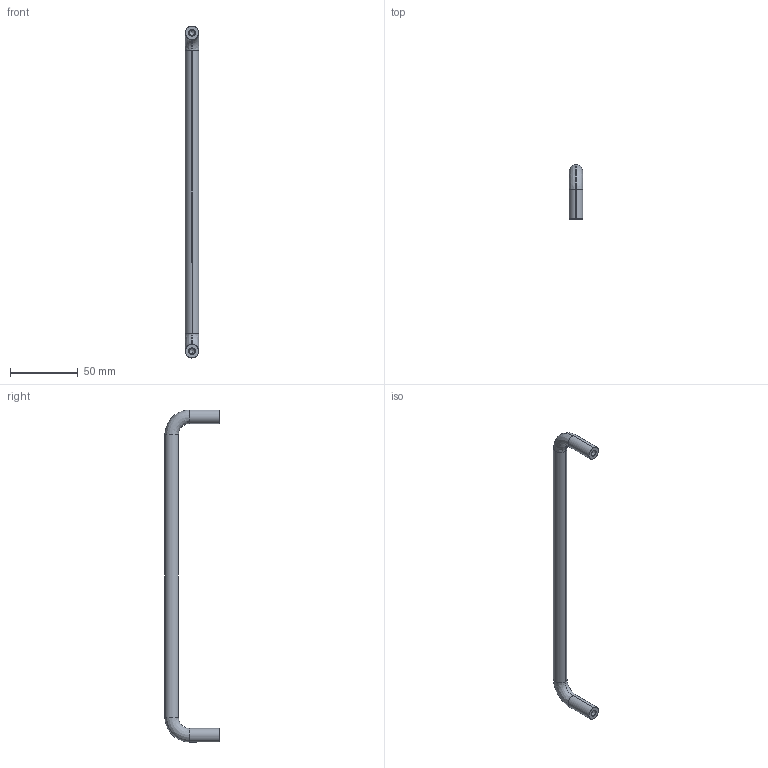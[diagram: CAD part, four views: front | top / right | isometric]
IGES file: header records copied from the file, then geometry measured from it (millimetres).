
Start section: SolidWorks IGES file using analytic representation for surfaces
Global section: file name: C:\Users\IanO\Desktop\Temp File\Process pending\79840_v2\79840_v2_20171115_IGES\79840.W0023.igs; native system: SolidWorks 2017; preprocessor: SolidWorks 2017; author: IanO; date: 171115.103736; units: millimetre
Bounding box: 10 x 40 x 245 mm (x, y, z)
Surface area: 9732.9 mm2 (no closed solid volume)
Topology: 0 solids, 0 shells, 26 faces, 344 edges, 340 vertices
Faces by surface type: revolution 18, bspline 8
